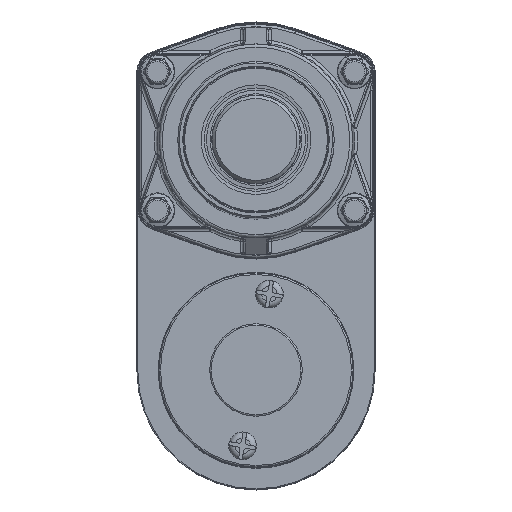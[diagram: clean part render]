
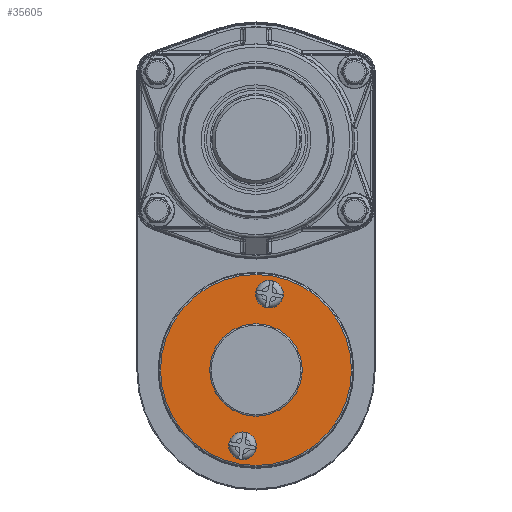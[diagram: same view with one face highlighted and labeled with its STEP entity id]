
A CAD part, top view. The second image highlights one B-rep face of the part: STEP entity #35605.
In plain terms, the highlighted planar face has unit normal (0, 0, 1).
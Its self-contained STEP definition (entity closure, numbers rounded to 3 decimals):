
#357 = DIRECTION ( 'NONE',  ( 0., 0., 1. ) ) ;
#909 = AXIS2_PLACEMENT_3D ( 'NONE', #66598, #28656, #72919 ) ;
#1062 = EDGE_LOOP ( 'NONE', ( #26035 ) ) ;
#1214 = DIRECTION ( 'NONE',  ( 0., 0., 1. ) ) ;
#4506 = FACE_BOUND ( 'NONE', #36310, .T. ) ;
#6517 = FACE_OUTER_BOUND ( 'NONE', #27588, .T. ) ;
#6841 = EDGE_CURVE ( 'NONE', #36734, #36734, #23327, .T. ) ;
#13078 = CARTESIAN_POINT ( 'NONE',  ( -2.976, -48.809, 284.9 ) ) ;
#15769 = DIRECTION ( 'NONE',  ( 0., 0., 1. ) ) ;
#16009 = EDGE_CURVE ( 'NONE', #43658, #43658, #27668, .T. ) ;
#19486 = PLANE ( 'NONE',  #52466 ) ;
#21758 = VERTEX_POINT ( 'NONE', #76090 ) ;
#22241 = AXIS2_PLACEMENT_3D ( 'NONE', #53782, #15769, #60114 ) ;
#23327 = CIRCLE ( 'NONE', #22241, 31. ) ;
#24423 = CARTESIAN_POINT ( 'NONE',  ( -22.871, -75.256, 284.9 ) ) ;
#25259 = CARTESIAN_POINT ( 'NONE',  ( -20.353, -60.976, 284.9 ) ) ;
#26035 = ORIENTED_EDGE ( 'NONE', *, *, #16009, .F. ) ;
#27588 = EDGE_LOOP ( 'NONE', ( #81908 ) ) ;
#27668 = CIRCLE ( 'NONE', #909, 4.5 ) ;
#28270 = CARTESIAN_POINT ( 'NONE',  ( -17.749, -46.204, 284.9 ) ) ;
#28656 = DIRECTION ( 'NONE',  ( 0., 0., 1. ) ) ;
#30263 = CARTESIAN_POINT ( 'NONE',  ( -23.132, -76.733, 284.9 ) ) ;
#34100 = EDGE_CURVE ( 'NONE', #44602, #44602, #54354, .T. ) ;
#34623 = DIRECTION ( 'NONE',  ( -0.174, -0.985, 0. ) ) ;
#35605 = ADVANCED_FACE ( 'NONE', ( #38235, #69906, #6517, #4506 ), #19486, .T. ) ;
#36310 = EDGE_LOOP ( 'NONE', ( #65610 ) ) ;
#36734 = VERTEX_POINT ( 'NONE', #30263 ) ;
#38235 = FACE_BOUND ( 'NONE', #1062, .T. ) ;
#38616 = EDGE_CURVE ( 'NONE', #21758, #21758, #77389, .T. ) ;
#39188 = CARTESIAN_POINT ( 'NONE',  ( -13.407, -21.584, 284.9 ) ) ;
#43658 = VERTEX_POINT ( 'NONE', #24423 ) ;
#44602 = VERTEX_POINT ( 'NONE', #25259 ) ;
#45550 = DIRECTION ( 'NONE',  ( -0.174, -0.985, 0. ) ) ;
#47377 = AXIS2_PLACEMENT_3D ( 'NONE', #39188, #1214, #45550 ) ;
#51267 = ORIENTED_EDGE ( 'NONE', *, *, #38616, .F. ) ;
#52466 = AXIS2_PLACEMENT_3D ( 'NONE', #13078, #357, #63828 ) ;
#53782 = CARTESIAN_POINT ( 'NONE',  ( -17.749, -46.204, 284.9 ) ) ;
#53887 = EDGE_LOOP ( 'NONE', ( #51267 ) ) ;
#54354 = CIRCLE ( 'NONE', #57711, 15. ) ;
#57711 = AXIS2_PLACEMENT_3D ( 'NONE', #28270, #72511, #34623 ) ;
#60114 = DIRECTION ( 'NONE',  ( -0.174, -0.985, 0. ) ) ;
#63828 = DIRECTION ( 'NONE',  ( -0.174, -0.985, 0. ) ) ;
#65610 = ORIENTED_EDGE ( 'NONE', *, *, #34100, .F. ) ;
#66598 = CARTESIAN_POINT ( 'NONE',  ( -22.09, -70.824, 284.9 ) ) ;
#69906 = FACE_BOUND ( 'NONE', #53887, .T. ) ;
#72511 = DIRECTION ( 'NONE',  ( 0., 0., 1. ) ) ;
#72919 = DIRECTION ( 'NONE',  ( -0.174, -0.985, 0. ) ) ;
#76090 = CARTESIAN_POINT ( 'NONE',  ( -14.189, -26.016, 284.9 ) ) ;
#77389 = CIRCLE ( 'NONE', #47377, 4.5 ) ;
#81908 = ORIENTED_EDGE ( 'NONE', *, *, #6841, .T. ) ;
